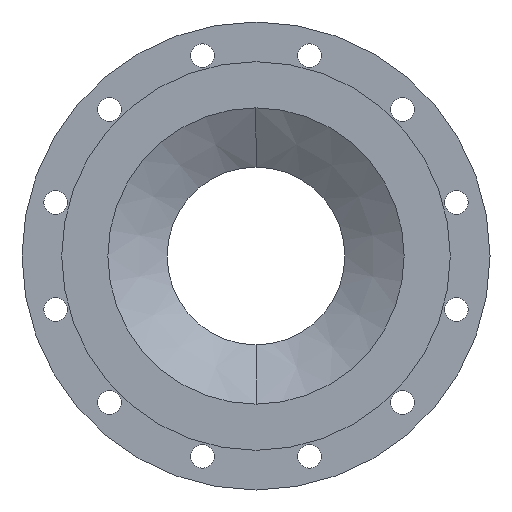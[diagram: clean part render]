
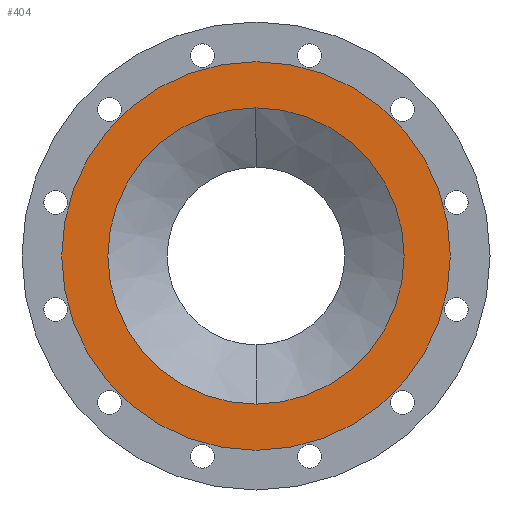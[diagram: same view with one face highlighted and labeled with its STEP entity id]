
A CAD part, left-side view. The second image highlights one B-rep face of the part: STEP entity #404.
In plain terms, the highlighted planar face has unit normal (-1, 0, 0).
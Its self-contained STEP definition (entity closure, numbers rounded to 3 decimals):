
#404=ADVANCED_FACE('',(#810,#811),#812,.F.);
#810=FACE_BOUND('',#1367,.T.);
#811=FACE_OUTER_BOUND('',#1368,.T.);
#812=PLANE('',#1369);
#1367=EDGE_LOOP('',(#1987,#1988));
#1368=EDGE_LOOP('',(#1989,#1990));
#1369=AXIS2_PLACEMENT_3D('',#1991,#1992,#1993);
#1987=ORIENTED_EDGE('',*,*,#2967,.T.);
#1988=ORIENTED_EDGE('',*,*,#3022,.T.);
#1989=ORIENTED_EDGE('',*,*,#3023,.F.);
#1990=ORIENTED_EDGE('',*,*,#2977,.F.);
#1991=CARTESIAN_POINT('',(0.0,0.0,0.));
#1992=DIRECTION('',(1.0,0.0,0.));
#1993=DIRECTION('',(0.,0.0,-1.0));
#2967=EDGE_CURVE('',#3486,#3490,#3492,.T.);
#2977=EDGE_CURVE('',#3508,#3503,#3510,.T.);
#3022=EDGE_CURVE('',#3490,#3486,#3581,.T.);
#3023=EDGE_CURVE('',#3503,#3508,#3582,.T.);
#3486=VERTEX_POINT('',#4189);
#3490=VERTEX_POINT('',#4194);
#3492=CIRCLE('',#4197,125.0);
#3503=VERTEX_POINT('',#4212);
#3508=VERTEX_POINT('',#4218);
#3510=CIRCLE('',#4221,164.0);
#3581=CIRCLE('',#4319,125.0);
#3582=CIRCLE('',#4320,164.0);
#4189=CARTESIAN_POINT('',(0.,0.0,-125.0));
#4194=CARTESIAN_POINT('',(0.,0.,125.0));
#4197=AXIS2_PLACEMENT_3D('',#4905,#4906,#4907);
#4212=CARTESIAN_POINT('',(0.,0.0,-164.0));
#4218=CARTESIAN_POINT('',(0.,0.,164.0));
#4221=AXIS2_PLACEMENT_3D('',#4917,#4918,#4919);
#4319=AXIS2_PLACEMENT_3D('',#4965,#4966,#4967);
#4320=AXIS2_PLACEMENT_3D('',#4968,#4969,#4970);
#4905=CARTESIAN_POINT('',(0.0,0.0,0.0));
#4906=DIRECTION('',(1.0,0.0,0.));
#4907=DIRECTION('',(0.,0.0,-1.0));
#4917=CARTESIAN_POINT('',(0.0,0.0,0.));
#4918=DIRECTION('',(1.0,0.0,0.));
#4919=DIRECTION('',(0.,0.0,-1.0));
#4965=CARTESIAN_POINT('',(0.0,0.0,0.0));
#4966=DIRECTION('',(1.0,0.0,0.));
#4967=DIRECTION('',(0.,0.0,-1.0));
#4968=CARTESIAN_POINT('',(0.0,0.0,0.));
#4969=DIRECTION('',(1.0,0.0,0.));
#4970=DIRECTION('',(0.,0.0,-1.0));
